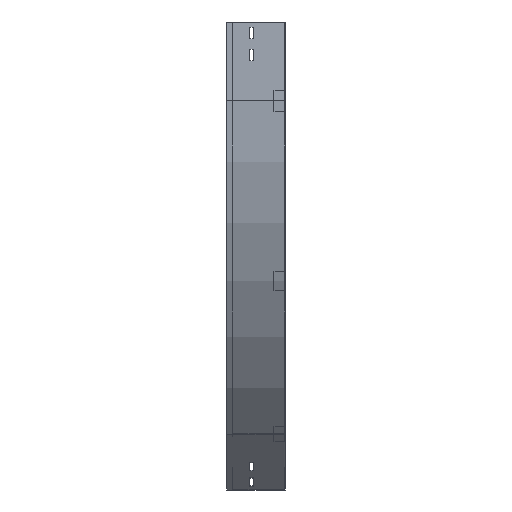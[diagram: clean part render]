
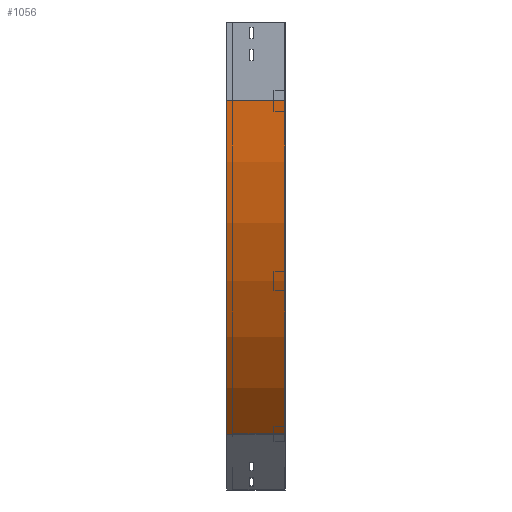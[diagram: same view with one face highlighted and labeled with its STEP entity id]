
A CAD part, left-side view. The second image highlights one B-rep face of the part: STEP entity #1056.
In plain terms, the highlighted cylindrical face has radius 900 mm (diameter 1800 mm), a partial arc.
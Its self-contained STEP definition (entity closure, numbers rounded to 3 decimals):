
#21 = CARTESIAN_POINT ( 'NONE',  ( 263.604, 0., -786.396 ) ) ;
#34 = DIRECTION ( 'NONE',  ( 0., -1., 0. ) ) ;
#80 = AXIS2_PLACEMENT_3D ( 'NONE', #2608, #840, #3737 ) ;
#242 = CIRCLE ( 'NONE', #1732, 900. ) ;
#461 = VECTOR ( 'NONE', #34, 1000. ) ;
#623 = LINE ( 'NONE', #1810, #461 ) ;
#660 = CARTESIAN_POINT ( 'NONE',  ( 0., 0., -150. ) ) ;
#772 = CARTESIAN_POINT ( 'NONE',  ( 263.604, 112.5, -786.396 ) ) ;
#808 = CARTESIAN_POINT ( 'NONE',  ( 900., 112.5, -150. ) ) ;
#840 = DIRECTION ( 'NONE',  ( 0., -1., 0. ) ) ;
#869 = EDGE_LOOP ( 'NONE', ( #1936, #1527, #2831, #1689 ) ) ;
#961 = DIRECTION ( 'NONE',  ( 0., -1., 0. ) ) ;
#1056 = ADVANCED_FACE ( 'NONE', ( #2905 ), #1431, .T. ) ;
#1074 = VECTOR ( 'NONE', #3010, 1000. ) ;
#1228 = EDGE_CURVE ( 'NONE', #1929, #1298, #623, .T. ) ;
#1298 = VERTEX_POINT ( 'NONE', #660 ) ;
#1431 = CYLINDRICAL_SURFACE ( 'NONE', #80, 900. ) ;
#1527 = ORIENTED_EDGE ( 'NONE', *, *, #1228, .F. ) ;
#1639 = AXIS2_PLACEMENT_3D ( 'NONE', #808, #961, #2711 ) ;
#1645 = DIRECTION ( 'NONE',  ( 0., -1., 0. ) ) ;
#1689 = ORIENTED_EDGE ( 'NONE', *, *, #2770, .T. ) ;
#1732 = AXIS2_PLACEMENT_3D ( 'NONE', #2891, #1645, #2291 ) ;
#1810 = CARTESIAN_POINT ( 'NONE',  ( 0., 0., -150. ) ) ;
#1881 = VERTEX_POINT ( 'NONE', #772 ) ;
#1925 = EDGE_CURVE ( 'NONE', #1929, #1881, #3188, .T. ) ;
#1929 = VERTEX_POINT ( 'NONE', #3515 ) ;
#1936 = ORIENTED_EDGE ( 'NONE', *, *, #3302, .F. ) ;
#2190 = CARTESIAN_POINT ( 'NONE',  ( 263.604, 0., -786.396 ) ) ;
#2291 = DIRECTION ( 'NONE',  ( -1., 0., 0. ) ) ;
#2608 = CARTESIAN_POINT ( 'NONE',  ( 900., 0., -150. ) ) ;
#2711 = DIRECTION ( 'NONE',  ( -1., 0., 0. ) ) ;
#2770 = EDGE_CURVE ( 'NONE', #1881, #3605, #2800, .T. ) ;
#2800 = LINE ( 'NONE', #2190, #1074 ) ;
#2831 = ORIENTED_EDGE ( 'NONE', *, *, #1925, .T. ) ;
#2891 = CARTESIAN_POINT ( 'NONE',  ( 900., 0., -150. ) ) ;
#2905 = FACE_OUTER_BOUND ( 'NONE', #869, .T. ) ;
#3010 = DIRECTION ( 'NONE',  ( 0., -1., 0. ) ) ;
#3188 = CIRCLE ( 'NONE', #1639, 900. ) ;
#3302 = EDGE_CURVE ( 'NONE', #1298, #3605, #242, .T. ) ;
#3515 = CARTESIAN_POINT ( 'NONE',  ( 0., 112.5, -150. ) ) ;
#3605 = VERTEX_POINT ( 'NONE', #21 ) ;
#3737 = DIRECTION ( 'NONE',  ( 0., 0., -1. ) ) ;
